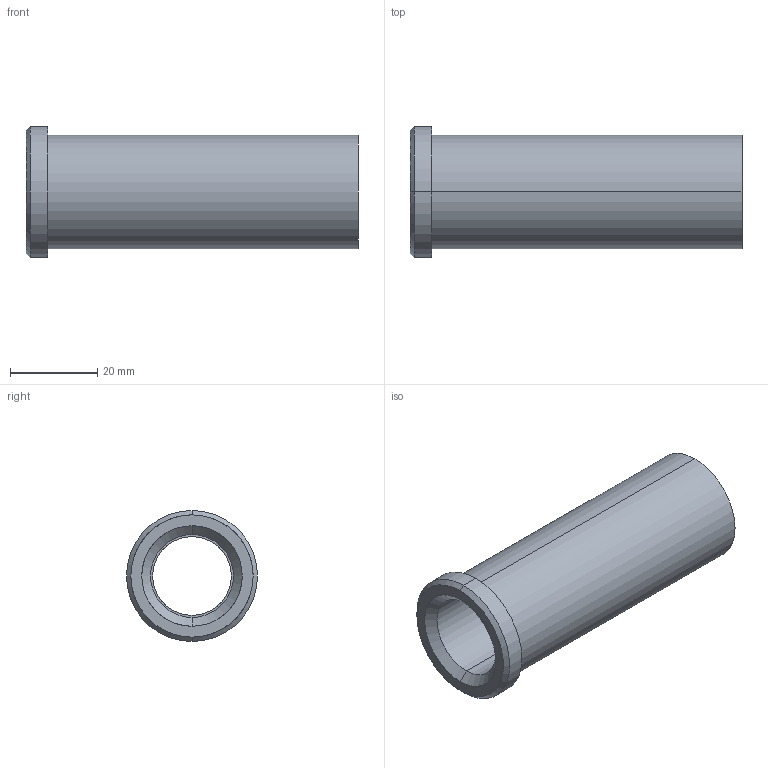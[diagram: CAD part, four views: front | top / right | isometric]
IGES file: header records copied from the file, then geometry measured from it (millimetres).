
Start section: START RECORD GO HERE.
Global section: file name: 353-18X76.igs; native system: DASSAULT SYSTEMES CATIA V5 R20 - www.3ds.com; preprocessor: CATIA Version 5 Release 20 ; author: Utente; organization: NB04-ASUS; date: 20210508.104021; units: millimetre
Bounding box: 76 x 30 x 30 mm (x, y, z)
Surface area: 11442.1 mm2 (no closed solid volume)
Topology: 0 solids, 0 shells, 18 faces, 116 edges, 116 vertices
Faces by surface type: revolution 14, plane 4
